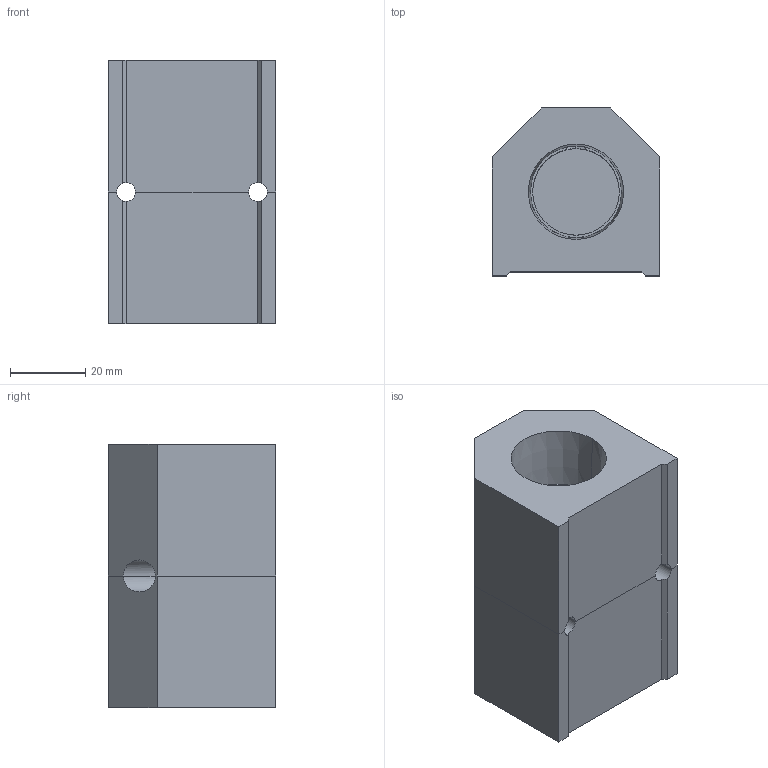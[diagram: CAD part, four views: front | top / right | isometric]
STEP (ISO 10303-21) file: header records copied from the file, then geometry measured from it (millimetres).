
FILE_DESCRIPTION (( 'STEP AP214' ), '1' );
FILE_NAME ('ALM2C-N4N12-70RB.step', '2022-02-06T14:18:33', ( '' ), ( '' ), 'SwSTEP 2.0', 'SolidWorks 2020', '' );
FILE_SCHEMA (( 'AUTOMOTIVE_DESIGN' ));
Length unit declared in the file: millimetre
Products named in the file (1): ALM2C-N4N12-70RB
Bounding box: 44.5 x 44.5 x 70 mm (x, y, z)
Volume: 89268.1 mm3; surface area: 24293.5 mm2
Topology: 2 solids, 2 shells, 297 faces, 785 edges, 520 vertices
Faces by surface type: plane 211, bspline 50, cylinder 22, cone 14
Entity records: 15517 total; most frequent: CARTESIAN_POINT 5759, ORIENTED_EDGE 1570, DIRECTION 1207, EDGE_CURVE 785, VECTOR 599, LINE 599, VERTEX_POINT 520, EDGE_LOOP 329
